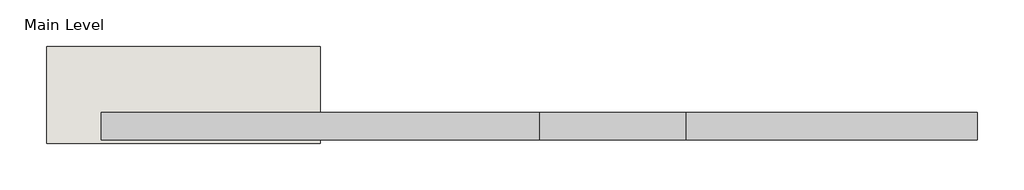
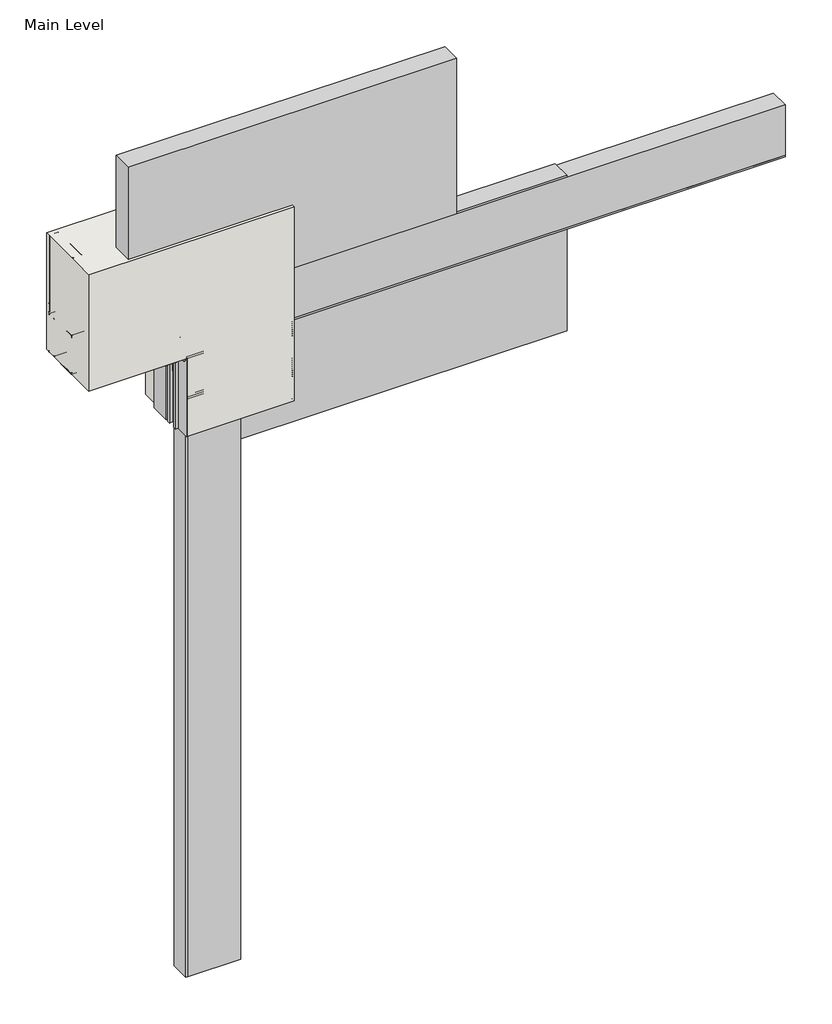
# One storey, incomplete: 20 proxies, 1 wall.
"""IFC4 building model written with IfcOpenShell, lengths in millimetres."""

from ifc_helpers import new_model, si_unit, frame, origin, place, context, project, spatial, polyline, outline, extrude, transform, mapped, element, save
from components import generic_models_31547c53, generic_models_0795693d, generic_models_cb092f88, generic_models_04f31e3c, generic_models_08e6521c, generic_models_d28646c3, proxy_81afb05a, proxy_e5e434bb, proxy_4c3b85e5, finish_coat_filler_finish_coat_filler_f99f7fa1, masonry_sill_masonry_sill_12063642, masonry_sill1_masonry_sill_6295a482, masonry_sill2_masonry_sill_ae5a4ad6, proxy_a3fd9b0b, proxy_3a0ad636, proxy_0073da47, sealant_sealant_3a8dd322, window_header_window_header_abd4ef46, wood_blocking_5320d369

model = new_model("IFC4")

# Units and contexts
model_context = context("Model", 3, world=origin())
ifc_project = project(units=[si_unit("LENGTHUNIT", "METRE", prefix="MILLI")], contexts=[model_context])

# Site, building, storey
site = spatial("IfcSite", under=ifc_project)
building = spatial("IfcBuilding", under=site)
storey = spatial("IfcBuildingStorey", under=building, Name="Main Level", Elevation=0.0)

# Proxies
placement = place(None, origin())
generic_models_shape = generic_models_31547c53(model_context)
element("IfcBuildingElementProxy", 1, Name="Durabond Generic Model Sealant Vent : Durabond Generic Model Sealant Vent", ObjectType="Durabond Generic Model Sealant Vent : Durabond Generic Model Sealant Vent", at=placement, inside=storey, context=model_context, shape_type="MappedRepresentation", body=[
    mapped(generic_models_shape, transform((26800.7195523, 547.6393211, 304.2607023), x_axis=(1.0, 0.0, 0.0), y_axis=(0.0, 0.08715574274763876, -0.9961946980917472), z_axis=(0.0, 0.9961946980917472, 0.08715574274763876))),
])
generic_models_2_shape = generic_models_0795693d(model_context)
generic_models_3_shape = generic_models_cb092f88(model_context)
generic_models_4_shape = generic_models_04f31e3c(model_context)
generic_models_5_shape = generic_models_08e6521c(model_context)
element("IfcBuildingElementProxy", 2, Name="CRAi Generic Model Mesh Piece Face Based : CRAi Generic Model Mesh Piece Face Based", ObjectType="CRAi Generic Model Mesh Piece Face Based : CRAi Generic Model Mesh Piece Face Based", at=placement, inside=storey, context=model_context, shape_type="MappedRepresentation", body=[
    mapped(generic_models_2_shape, transform((27054.3226773, 541.9066297, 155.3366797), x_axis=(-1.0, 0.0, 0.0), y_axis=(0.0, 0.0, -1.0), z_axis=(0.0, -1.0, 0.0))),
    mapped(generic_models_3_shape, transform((27054.3226773, 541.9066297, 155.3366797), x_axis=(-1.0, 0.0, 0.0), y_axis=(0.0, 0.0, -1.0), z_axis=(0.0, -1.0, 0.0))),
    mapped(generic_models_4_shape, transform((27054.3226773, 541.9066297, 155.3366797), x_axis=(-1.0, 0.0, 0.0), y_axis=(0.0, 0.0, -1.0), z_axis=(0.0, -1.0, 0.0))),
    mapped(generic_models_5_shape, transform((27054.3226773, 541.9066297, 155.3366797), x_axis=(-1.0, 0.0, 0.0), y_axis=(0.0, 0.0, -1.0), z_axis=(0.0, -1.0, 0.0))),
])
generic_models_6_shape = generic_models_d28646c3(model_context)
element("IfcBuildingElementProxy", 3, Name="CRAi Generic Model Line Based Drip Deflector : CRAi Generic Model Line Based Drip Deflector", ObjectType="CRAi Generic Model Line Based Drip Deflector : CRAi Generic Model Line Based Drip Deflector", at=placement, inside=storey, context=model_context, shape_type="MappedRepresentation", body=[
    mapped(generic_models_6_shape, transform((26855.8851773, 541.5329375, 295.758643), x_axis=(0.0, 0.996194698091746, 0.08715574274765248), y_axis=(-1.0, 0.0, 0.0), z_axis=(0.0, -0.08715574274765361, 0.996194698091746))),
])
proxy_shape = proxy_81afb05a(model_context)
element("IfcBuildingElementProxy", 4, Name="Durabond Generic Model Equalite Insulation Board : 3\"", ObjectType="Durabond Generic Model Equalite Insulation Board : 3\"", at=placement, inside=storey, context=model_context, shape_type="MappedRepresentation", body=[
    mapped(proxy_shape, transform((27251.1726773, 624.4566297, 819.024222), x_axis=(1.0, 0.0, 0.0), y_axis=(0.0, 0.0, 1.0), z_axis=(0.0, -1.0, 0.0))),
])
element("IfcBuildingElementProxy", 5, Name="Durabond Generic Model Equalite Insulation Board : 3\"", ObjectType="Durabond Generic Model Equalite Insulation Board : 3\"", at=placement, inside=storey, context=model_context, shape_type="MappedRepresentation", body=[
    mapped(proxy_shape, transform((27659.1601773, 624.4566297, 217.361722), x_axis=(1.0, 0.0, 0.0), y_axis=(0.0, 0.0, 1.0), z_axis=(0.0, -1.0, 0.0))),
])
proxy_2_shape = proxy_e5e434bb(model_context)
element("IfcBuildingElementProxy", 6, Name="Durabond Generic Model Equalite Vent Board : 3\"", ObjectType="Durabond Generic Model Equalite Vent Board : 3\"", at=placement, inside=storey, context=model_context, shape_type="MappedRepresentation", body=[
    mapped(proxy_2_shape, transform((27860.7726773, 624.4566297, 412.624222), x_axis=(1.0, 0.0, 0.0), y_axis=(0.0, 0.0, 1.0), z_axis=(0.0, -1.0, 0.0))),
])
proxy_3_shape = proxy_4c3b85e5(model_context)
element("IfcBuildingElementProxy", 7, Name="Durabond Generic Model Equalite Select Boundary Board : 3\"", ObjectType="Durabond Generic Model Equalite Select Boundary Board : 3\"", at=placement, inside=storey, context=model_context, shape_type="MappedRepresentation", body=[
    mapped(proxy_3_shape, transform((26957.4851773, 624.4566297, -908.175778), x_axis=(0.0, 0.0, -1.0), y_axis=(1.0, 0.0, 0.0), z_axis=(0.0, -1.0, 0.0))),
])
finish_coat_filler_finish_coat_filler_shape = finish_coat_filler_finish_coat_filler_f99f7fa1(model_context)
element("IfcBuildingElementProxy", 8, Name="Finish Coat Filler : Finish Coat Filler", ObjectType="Finish Coat Filler : Finish Coat Filler", at=placement, inside=storey, context=model_context, shape_type="MappedRepresentation", body=[
    mapped(finish_coat_filler_finish_coat_filler_shape, transform((0.0, 0.0, 0.0), x_axis=(1.0, 0.0, 0.0), y_axis=(0.0, 1.0, 0.0), z_axis=(0.0, 0.0, 1.0))),
])
masonry_sill_masonry_sill_shape = masonry_sill_masonry_sill_12063642(model_context)
element("IfcBuildingElementProxy", 9, Name="Masonry Sill : Masonry Sill", ObjectType="Masonry Sill : Masonry Sill", at=placement, inside=storey, context=model_context, shape_type="MappedRepresentation", body=[
    mapped(masonry_sill_masonry_sill_shape, transform((0.0, 0.0, 0.0), x_axis=(1.0, 0.0, 0.0), y_axis=(0.0, 1.0, 0.0), z_axis=(0.0, 0.0, 1.0))),
])
masonry_sill1_masonry_sill_shape = masonry_sill1_masonry_sill_6295a482(model_context)
element("IfcBuildingElementProxy", 10, Name="Masonry Sill1 : Masonry Sill", ObjectType="Masonry Sill1 : Masonry Sill", at=placement, inside=storey, context=model_context, shape_type="MappedRepresentation", body=[
    mapped(masonry_sill1_masonry_sill_shape, transform((0.0, 0.0, 0.0), x_axis=(1.0, 0.0, 0.0), y_axis=(0.0, 1.0, 0.0), z_axis=(0.0, 0.0, 1.0))),
])
masonry_sill2_masonry_sill_shape = masonry_sill2_masonry_sill_ae5a4ad6(model_context)
element("IfcBuildingElementProxy", 11, Name="Masonry Sill2 : Masonry Sill", ObjectType="Masonry Sill2 : Masonry Sill", at=placement, inside=storey, context=model_context, shape_type="MappedRepresentation", body=[
    mapped(masonry_sill2_masonry_sill_shape, transform((0.0, 0.0, 0.0), x_axis=(1.0, 0.0, 0.0), y_axis=(0.0, 1.0, 0.0), z_axis=(0.0, 0.0, 1.0))),
])
proxy_4_shape = proxy_a3fd9b0b(model_context)
element("IfcBuildingElementProxy", 12, Name="CRAi Generic Model Metal Stud : Metal Framing Stud - 1\" x 3.5\"", ObjectType="CRAi Generic Model Metal Stud : Metal Framing Stud - 1\" x 3.5\"", at=placement, inside=storey, context=model_context, shape_type="MappedRepresentation", body=[
    mapped(proxy_4_shape, transform((26876.5226773, 726.0566297, 0.0), x_axis=(1.0, 0.0, 0.0), y_axis=(0.0, 1.0, 0.0), z_axis=(0.0, 0.0, 1.0))),
])
proxy_5_shape = proxy_3a0ad636(model_context)
element("IfcBuildingElementProxy", 13, Name="CRAi Generic Model Metal Stud : Metal Framing Stud - 1\" x 3.5\"", ObjectType="CRAi Generic Model Metal Stud : Metal Framing Stud - 1\" x 3.5\"", at=placement, inside=storey, context=model_context, shape_type="MappedRepresentation", body=[
    mapped(proxy_5_shape, transform((26508.2226773, 719.7066297, 0.0), x_axis=(-1.0, 0.0, 0.0), y_axis=(0.0, -1.0, 0.0), z_axis=(0.0, 0.0, 1.0))),
])
element("IfcBuildingElementProxy", 14, Name="CRAi Generic Model Metal Stud : Metal Framing Stud - 1\" x 3.5\"", ObjectType="CRAi Generic Model Metal Stud : Metal Framing Stud - 1\" x 3.5\"", at=placement, inside=storey, context=model_context, shape_type="MappedRepresentation", body=[
    mapped(proxy_5_shape, transform((26876.5226773, 719.7066297, 0.0), x_axis=(-1.0, 0.0, 0.0), y_axis=(0.0, -1.0, 0.0), z_axis=(0.0, 0.0, 1.0))),
])
proxy_6_shape = proxy_0073da47(model_context)
element("IfcBuildingElementProxy", 15, Name="CRAi Generic Model Metal Stud : Metal Framing Stud - 1\" x 3.5\"", ObjectType="CRAi Generic Model Metal Stud : Metal Framing Stud - 1\" x 3.5\"", at=placement, inside=storey, context=model_context, shape_type="MappedRepresentation", body=[
    mapped(proxy_6_shape, transform((26914.6226773, 719.7066297, 0.0), x_axis=(1.0, 0.0, 0.0), y_axis=(0.0, 1.0, 0.0), z_axis=(0.0, 0.0, 1.0))),
])
sealant_sealant_shape = sealant_sealant_3a8dd322(model_context)
element("IfcBuildingElementProxy", 16, Name="Sealant : Sealant", ObjectType="Sealant : Sealant", at=placement, inside=storey, context=model_context, shape_type="MappedRepresentation", body=[
    mapped(sealant_sealant_shape, transform((0.0, 0.0, 0.0), x_axis=(1.0, 0.0, 0.0), y_axis=(0.0, 1.0, 0.0), z_axis=(0.0, 0.0, 1.0))),
])
window_header_window_header_shape = window_header_window_header_abd4ef46(model_context)
element("IfcBuildingElementProxy", 17, Name="Window Header : Window Header", ObjectType="Window Header : Window Header", at=placement, inside=storey, context=model_context, shape_type="MappedRepresentation", body=[
    mapped(window_header_window_header_shape, transform((0.0, -6.35, 0.0), x_axis=(1.0, 0.0, 0.0), y_axis=(0.0, 1.0, 0.0), z_axis=(0.0, 0.0, 1.0))),
])
wood_blocking_shape = wood_blocking_5320d369(model_context)
element("IfcBuildingElementProxy", 18, Name="CRAi Generic Model Line Based Metal Framing Track : Wood Blocking", ObjectType="CRAi Generic Model Line Based Metal Framing Track : Wood Blocking", at=placement, inside=storey, context=model_context, shape_type="MappedRepresentation", body=[
    mapped(wood_blocking_shape, transform((26489.1726773, 643.5066297, 304.8), x_axis=(1.0, 0.0, 0.0), y_axis=(0.0, 1.0, 0.0), z_axis=(0.0, 0.0, 1.0))),
])
element("IfcBuildingElementProxy", 19, Name="CRAi Generic Model Line Based Metal Framing Track : Wood Blocking", ObjectType="CRAi Generic Model Line Based Metal Framing Track : Wood Blocking", at=placement, inside=storey, context=model_context, shape_type="MappedRepresentation", body=[
    mapped(wood_blocking_shape, transform((26489.1726773, 795.907101, 457.2), x_axis=(1.0, 0.0, 0.0), y_axis=(0.0, -1.0, 0.0), z_axis=(0.0, 0.0, -1.0))),
])
element("IfcBuildingElementProxy", 20, Name="CRAi Generic Model Line Based Metal Framing Track : Wood Blocking", ObjectType="CRAi Generic Model Line Based Metal Framing Track : Wood Blocking", at=placement, inside=storey, context=model_context, shape_type="MappedRepresentation", body=[
    mapped(wood_blocking_shape, transform((26489.1726773, 643.5066297, 457.2), x_axis=(1.0, 0.0, 0.0), y_axis=(0.0, 1.0, 0.0), z_axis=(0.0, 0.0, 1.0))),
])

# Wall
element("IfcWall", 21, ObjectType="189mm (7.5”) EIFS Field Applied on Mtl. Stud Layer - 50mm Grooved Insulation Board Metal Stud Wall(AirStop) 2", at=placement, inside=storey, context=model_context, shape_type="SweptSolid", body=[
    extrude(outline(polyline([(0.0, 27251.1726773), (762.0, 27251.1726773), (762.0, 26489.1726773), (304.8, 26489.1726773), (304.8, 26857.4726773), (0.0, 26857.4726773), (0.0, 27251.1726773)])), frame((0.0, 538.7316297, 0.0), z_axis=(0.0, 1.0, 0.0), x_axis=(0.0, 0.0, 1.0)), (0.0, 0.0, 1.0), 269.875),
])

save(model, "model.ifc")
